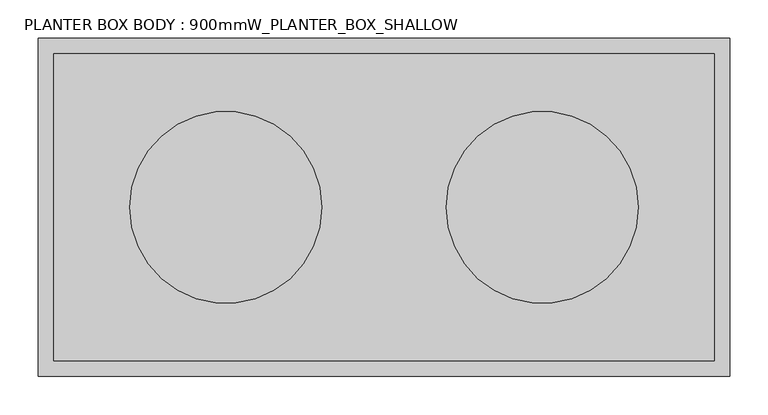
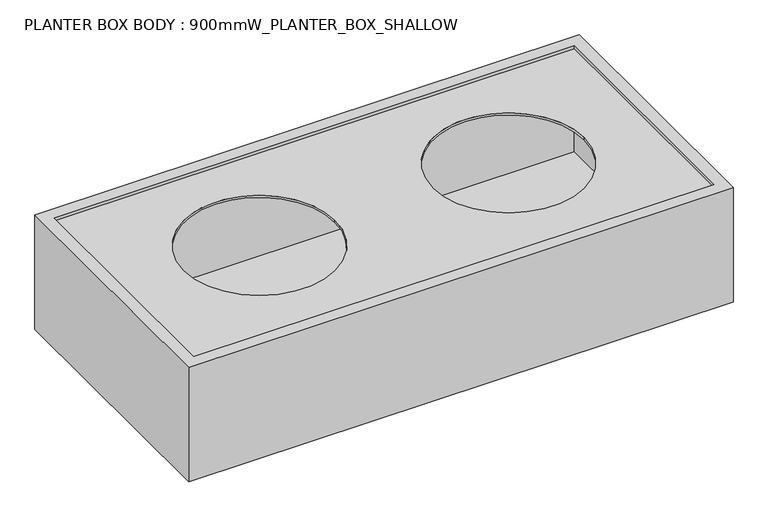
"""IFC4 building model written with IfcOpenShell, lengths in millimetres: furniture geometry, PLANTER BOX BODY : 900mmW_PLANTER_BOX_SHALLOW."""

from ifc_helpers import new_model, si_unit, point, frame, frame_2d, origin, place, context, project, spatial, polyline, circle_curve, trimmed, segment, composite_curve, outline, extrude, source, transform, mapped, element, save


def planter_box_body_900mmw_planter_box_shallow_4abc8372(model_context):
    return source(origin(), model_context, "Body", "SweptSolid", [
        extrude(outline(polyline([(450.0, -220.0), (-450.0, -220.0), (-450.0, 220.0), (450.0, 220.0), (450.0, -220.0)]), holes=[polyline([(-430.0, -200.0), (430.0, -200.0), (430.0, 200.0), (-430.0, 200.0), (-430.0, -200.0)])]), frame((0.0, 0.0, 195.0), z_axis=(0.0, 0.0, 1.0), x_axis=(1.0, 0.0, 0.0)), (0.0, 0.0, 1.0), 200.0),
        extrude(outline(polyline([(430.0, -200.0), (-430.0, -200.0), (-430.0, 200.0), (430.0, 200.0), (430.0, -200.0)])), frame((0.0, 0.0, 195.0), z_axis=(0.0, 0.0, 1.0), x_axis=(1.0, 0.0, 0.0)), (0.0, 0.0, 1.0), 15.0),
        extrude(outline(polyline([(430.0, -200.0), (-430.0, -200.0), (-430.0, 200.0), (430.0, 200.0), (430.0, -200.0)]), holes=[composite_curve([segment(trimmed(circle_curve(frame_2d((-206.0, 0.0)), 125.0), [point((-331.0, 0.0))], [point((-81.0, 0.0))], True, "CARTESIAN"), True, "CONTINUOUS"), segment(trimmed(circle_curve(frame_2d((-206.0, 0.0)), 125.0), [point((-81.0, 0.0))], [point((-331.0, 0.0))], True, "CARTESIAN"), True, "CONTINUOUS")], self_intersect=False), composite_curve([segment(trimmed(circle_curve(frame_2d((206.0, 0.0)), 125.0), [point((81.0, 0.0))], [point((331.0, 0.0))], True, "CARTESIAN"), True, "CONTINUOUS"), segment(trimmed(circle_curve(frame_2d((206.0, 0.0)), 125.0), [point((331.0, 0.0))], [point((81.0, 0.0))], True, "CARTESIAN"), True, "CONTINUOUS")], self_intersect=False)]), frame((0.0, 0.0, 386.4363245), z_axis=(0.0, 0.0, 1.0), x_axis=(1.0, 0.0, 0.0)), (0.0, 0.0, 1.0), 3.5636755),
    ])


if __name__ == "__main__":
    model = new_model("IFC4")
    model_context = context("Model", 3, world=origin())
    ifc_project = project(units=[si_unit("LENGTHUNIT", "METRE", prefix="MILLI")], contexts=[model_context])
    site = spatial("IfcSite", under=ifc_project)
    building = spatial("IfcBuilding", under=site)
    placement = place(None, origin())
    planter_box_body_900mmw_planter_box_shallow_shape = planter_box_body_900mmw_planter_box_shallow_4abc8372(model_context)
    element("IfcFurniture", 1, ObjectType="PLANTER BOX BODY : 900mmW_PLANTER_BOX_SHALLOW", at=placement, inside=building, context=model_context, shape_type="MappedRepresentation", body=[
        mapped(planter_box_body_900mmw_planter_box_shallow_shape, transform((0.0, 0.0, 0.0), x_axis=(1.0, 0.0, 0.0), y_axis=(0.0, 1.0, 0.0), z_axis=(0.0, 0.0, 1.0))),
    ])
    save(model, "model.ifc")
